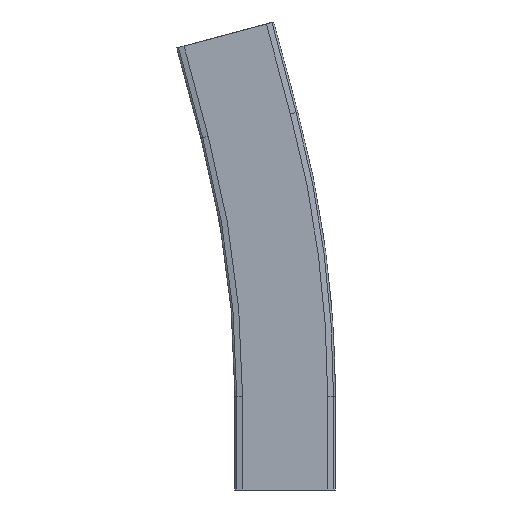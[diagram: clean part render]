
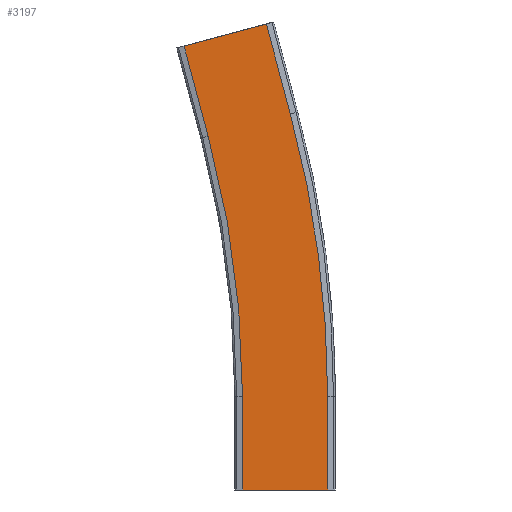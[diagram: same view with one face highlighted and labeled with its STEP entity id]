
A CAD part, front view. The second image highlights one B-rep face of the part: STEP entity #3197.
In plain terms, the highlighted planar face has unit normal (0, -1, 0).
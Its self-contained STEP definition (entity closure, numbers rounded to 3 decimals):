
#325=FACE_OUTER_BOUND('',#493,.T.);
#493=EDGE_LOOP('',(#2915,#2916,#2917,#2918,#2919,#2920,#2921,#2922));
#575=CIRCLE('',#3438,936.5);
#578=CIRCLE('',#3444,863.5);
#888=LINE('',#5509,#1226);
#893=LINE('',#5518,#1231);
#895=LINE('',#5523,#1233);
#910=LINE('',#5563,#1248);
#915=LINE('',#5574,#1253);
#916=LINE('',#5576,#1254);
#1226=VECTOR('',#4179,10.);
#1231=VECTOR('',#4186,10.);
#1233=VECTOR('',#4190,10.);
#1248=VECTOR('',#4231,10.);
#1253=VECTOR('',#4244,10.);
#1254=VECTOR('',#4247,10.);
#1534=VERTEX_POINT('',#5506);
#1535=VERTEX_POINT('',#5508);
#1538=VERTEX_POINT('',#5515);
#1539=VERTEX_POINT('',#5520);
#1549=VERTEX_POINT('',#5546);
#1551=VERTEX_POINT('',#5556);
#1552=VERTEX_POINT('',#5561);
#1554=VERTEX_POINT('',#5572);
#1978=EDGE_CURVE('',#1535,#1534,#888,.T.);
#1983=EDGE_CURVE('',#1535,#1538,#893,.T.);
#1985=EDGE_CURVE('',#1534,#1539,#895,.T.);
#1998=EDGE_CURVE('',#1539,#1549,#575,.T.);
#2004=EDGE_CURVE('',#1538,#1551,#578,.T.);
#2006=EDGE_CURVE('',#1549,#1552,#910,.T.);
#2011=EDGE_CURVE('',#1551,#1554,#915,.T.);
#2012=EDGE_CURVE('',#1552,#1554,#916,.T.);
#2915=ORIENTED_EDGE('',*,*,#2012,.T.);
#2916=ORIENTED_EDGE('',*,*,#2011,.F.);
#2917=ORIENTED_EDGE('',*,*,#2004,.F.);
#2918=ORIENTED_EDGE('',*,*,#1983,.F.);
#2919=ORIENTED_EDGE('',*,*,#1978,.T.);
#2920=ORIENTED_EDGE('',*,*,#1985,.T.);
#2921=ORIENTED_EDGE('',*,*,#1998,.T.);
#2922=ORIENTED_EDGE('',*,*,#2006,.T.);
#3034=PLANE('',#3450);
#3197=ADVANCED_FACE('',(#325),#3034,.T.);
#3438=AXIS2_PLACEMENT_3D('',#5548,#4211,#4212);
#3444=AXIS2_PLACEMENT_3D('',#5559,#4226,#4227);
#3450=AXIS2_PLACEMENT_3D('',#5575,#4245,#4246);
#4179=DIRECTION('',(1.,0.,0.));
#4186=DIRECTION('',(0.,0.,1.));
#4190=DIRECTION('',(0.,0.,1.));
#4211=DIRECTION('center_axis',(0.,-1.,0.));
#4212=DIRECTION('ref_axis',(1.,0.,0.));
#4226=DIRECTION('center_axis',(0.,-1.,0.));
#4227=DIRECTION('ref_axis',(1.,0.,0.));
#4231=DIRECTION('',(-0.259,0.,0.966));
#4244=DIRECTION('',(-0.259,0.,0.966));
#4245=DIRECTION('center_axis',(0.,-1.,0.));
#4246=DIRECTION('ref_axis',(0.259,0.,-0.966));
#4247=DIRECTION('',(-0.966,0.,-0.259));
#5506=CARTESIAN_POINT('',(36.5,-11.,0.));
#5508=CARTESIAN_POINT('',(-36.5,-11.,0.));
#5509=CARTESIAN_POINT('',(-36.5,-11.,0.));
#5515=CARTESIAN_POINT('',(-36.5,-11.,80.));
#5518=CARTESIAN_POINT('',(-36.5,-11.,0.));
#5520=CARTESIAN_POINT('',(36.5,-11.,80.));
#5523=CARTESIAN_POINT('',(36.5,-11.,0.));
#5546=CARTESIAN_POINT('',(4.59,-11.,322.384));
#5548=CARTESIAN_POINT('Origin',(-900.,-11.,80.));
#5556=CARTESIAN_POINT('',(-65.923,-11.,303.49));
#5559=CARTESIAN_POINT('Origin',(-900.,-11.,80.));
#5561=CARTESIAN_POINT('',(-16.116,-11.,399.658));
#5563=CARTESIAN_POINT('',(86.278,-11.,17.519));
#5572=CARTESIAN_POINT('',(-86.629,-11.,380.764));
#5574=CARTESIAN_POINT('',(15.765,-11.,-1.375));
#5575=CARTESIAN_POINT('Origin',(86.278,-11.,17.519));
#5576=CARTESIAN_POINT('',(-32.295,-11.,395.323));
